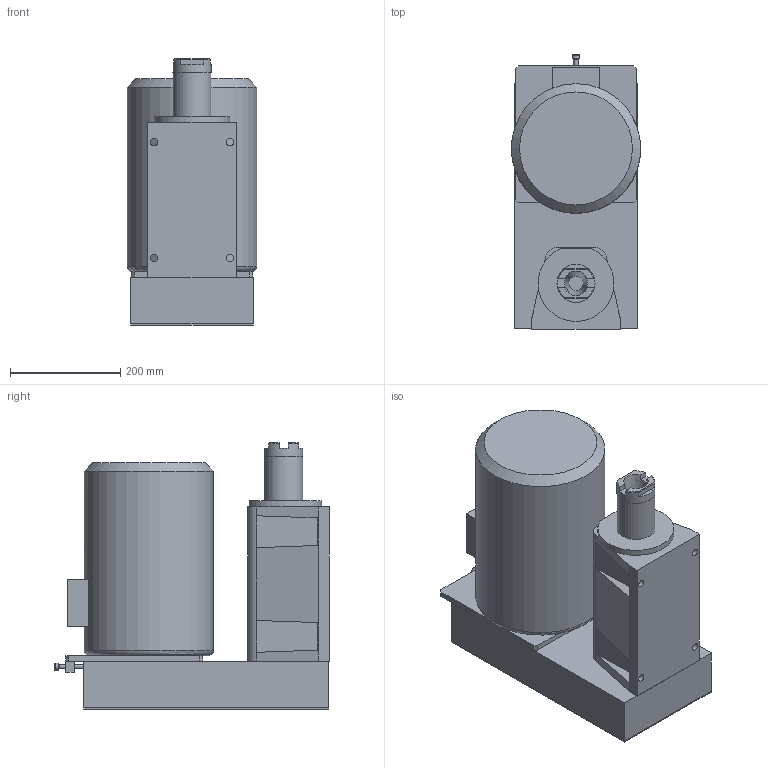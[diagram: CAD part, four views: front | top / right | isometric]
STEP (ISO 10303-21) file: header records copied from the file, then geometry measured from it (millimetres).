
FILE_DESCRIPTION((''),'2;1');
FILE_NAME('C:\VaultWork\Zeichnungen\Maßblätter\BF4\BF01517-3-1 Maßblatt BF4-SK40 U-Laterne Sonderausführung.stp','2010-07-12T09:56:05',('Test'),(''),'Autodesk Inventor 2008','Autodesk Inventor 2008','');
FILE_SCHEMA(('AUTOMOTIVE_DESIGN { 1 0 10303 214 1 1 1 1 }'));
Length unit declared in the file: millimetre
Products named in the file (1): BF01517-3-1 Maßblatt BF4-SK40 U-Laterne Sonderausführung
Bounding box: 235 x 499 x 483.2 mm (x, y, z)
Volume: 30223644.7 mm3; surface area: 856970.7 mm2
Topology: 2 solids, 2 shells, 134 faces, 326 edges, 205 vertices
Faces by surface type: plane 79, bspline 23, cylinder 22, cone 8, torus 2
Full cylindrical faces by diameter (mm): 8 x2, 13 x1, 26 x1, 68.8 x1, 69 x1, 235 x1
Entity records: 4058 total; most frequent: CARTESIAN_POINT 918, ORIENTED_EDGE 590, DIRECTION 587, EDGE_CURVE 295, AXIS2_PLACEMENT_3D 198, VERTEX_POINT 198, VECTOR 191, LINE 191
